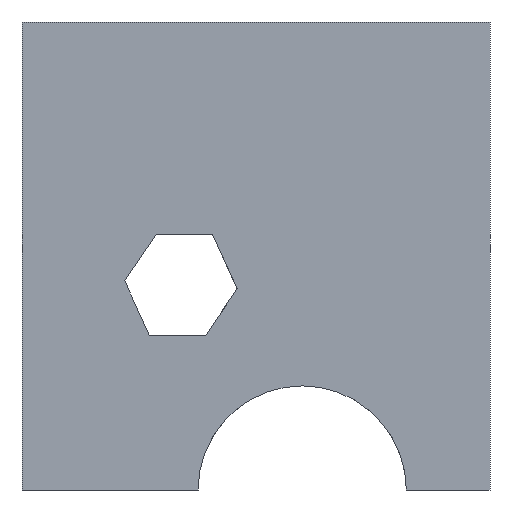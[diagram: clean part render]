
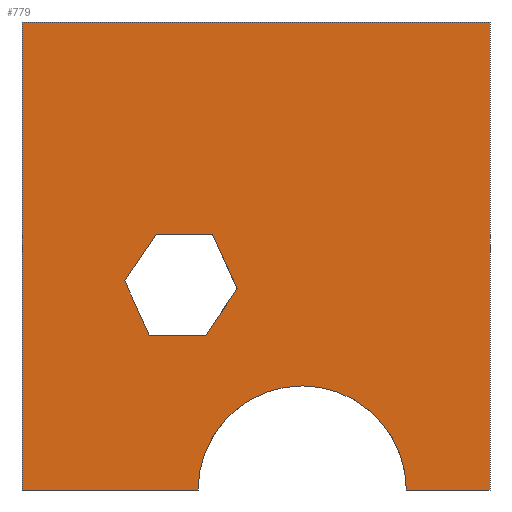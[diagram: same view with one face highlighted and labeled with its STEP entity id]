
A CAD part, front view. The second image highlights one B-rep face of the part: STEP entity #779.
In plain terms, the highlighted planar face has unit normal (0, -1, 0).
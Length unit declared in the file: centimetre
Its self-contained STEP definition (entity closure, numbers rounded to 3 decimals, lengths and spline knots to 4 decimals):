
#11 = FACE_BOUND ( 'NONE', #990, .T. ) ;
#14 = ORIENTED_EDGE ( 'NONE', *, *, #587, .T. ) ;
#38 = LINE ( 'NONE', #979, #219 ) ;
#47 = DIRECTION ( 'NONE',  ( -1., 0., 0. ) ) ;
#53 = CARTESIAN_POINT ( 'NONE',  ( 821.0989, 0., 0. ) ) ;
#56 = ORIENTED_EDGE ( 'NONE', *, *, #299, .T. ) ;
#85 = VECTOR ( 'NONE', #861, 100. ) ;
#92 = DIRECTION ( 'NONE',  ( 0., 1., 0. ) ) ;
#120 = LINE ( 'NONE', #1057, #245 ) ;
#121 = CARTESIAN_POINT ( 'NONE',  ( 0., 0., 0. ) ) ;
#124 = EDGE_CURVE ( 'NONE', #599, #389, #554, .T. ) ;
#143 = VECTOR ( 'NONE', #434, 100. ) ;
#148 = VERTEX_POINT ( 'NONE', #915 ) ;
#151 = CIRCLE ( 'NONE', #251, 222.4499 ) ;
#162 = DIRECTION ( 'NONE',  ( 1., 0., 0. ) ) ;
#181 = EDGE_CURVE ( 'NONE', #358, #840, #38, .T. ) ;
#197 = DIRECTION ( 'NONE',  ( 0., 1., 0. ) ) ;
#219 = VECTOR ( 'NONE', #705, 100. ) ;
#223 = LINE ( 'NONE', #541, #477 ) ;
#235 = ORIENTED_EDGE ( 'NONE', *, *, #1018, .T. ) ;
#245 = VECTOR ( 'NONE', #281, 100. ) ;
#250 = DIRECTION ( 'NONE',  ( 0., 0., 1. ) ) ;
#251 = AXIS2_PLACEMENT_3D ( 'NONE', #356, #276, #788 ) ;
#252 = ORIENTED_EDGE ( 'NONE', *, *, #1003, .T. ) ;
#276 = DIRECTION ( 'NONE',  ( 0., 1., 0. ) ) ;
#281 = DIRECTION ( 'NONE',  ( -0.412, 0., 0.911 ) ) ;
#299 = EDGE_CURVE ( 'NONE', #148, #1008, #388, .T. ) ;
#307 = VECTOR ( 'NONE', #820, 100. ) ;
#310 = ORIENTED_EDGE ( 'NONE', *, *, #124, .T. ) ;
#330 = VERTEX_POINT ( 'NONE', #833 ) ;
#339 = VECTOR ( 'NONE', #839, 100. ) ;
#347 = FACE_OUTER_BOUND ( 'NONE', #365, .T. ) ;
#354 = PLANE ( 'NONE',  #525 ) ;
#356 = CARTESIAN_POINT ( 'NONE',  ( 598.649, 0., 0. ) ) ;
#358 = VERTEX_POINT ( 'NONE', #645 ) ;
#362 = DIRECTION ( 'NONE',  ( 0.412, 0., -0.911 ) ) ;
#365 = EDGE_LOOP ( 'NONE', ( #310, #888, #491, #747, #454, #563, #14 ) ) ;
#381 = CARTESIAN_POINT ( 'NONE',  ( 392.3842, 0., 330.1695 ) ) ;
#388 = LINE ( 'NONE', #739, #339 ) ;
#389 = VERTEX_POINT ( 'NONE', #999 ) ;
#423 = CARTESIAN_POINT ( 'NONE',  ( 0., 0., 0. ) ) ;
#424 = LINE ( 'NONE', #518, #143 ) ;
#428 = EDGE_CURVE ( 'NONE', #1005, #840, #860, .T. ) ;
#434 = DIRECTION ( 'NONE',  ( 1., 0., 0. ) ) ;
#435 = CIRCLE ( 'NONE', #579, 222.4499 ) ;
#445 = VECTOR ( 'NONE', #939, 100. ) ;
#450 = CARTESIAN_POINT ( 'NONE',  ( 407.0344, 0., 546.6924 ) ) ;
#454 = ORIENTED_EDGE ( 'NONE', *, *, #181, .F. ) ;
#457 = CARTESIAN_POINT ( 'NONE',  ( 598.649, 0., 222.4499 ) ) ;
#477 = VECTOR ( 'NONE', #362, 100. ) ;
#491 = ORIENTED_EDGE ( 'NONE', *, *, #552, .T. ) ;
#494 = EDGE_CURVE ( 'NONE', #510, #358, #1016, .T. ) ;
#508 = LINE ( 'NONE', #955, #85 ) ;
#510 = VERTEX_POINT ( 'NONE', #532 ) ;
#512 = CARTESIAN_POINT ( 'NONE',  ( 1000., 0., 0. ) ) ;
#518 = CARTESIAN_POINT ( 'NONE',  ( 286.9083, 0., 546.6924 ) ) ;
#525 = AXIS2_PLACEMENT_3D ( 'NONE', #873, #92, #250 ) ;
#532 = CARTESIAN_POINT ( 'NONE',  ( 0., 0., 1000. ) ) ;
#533 = CARTESIAN_POINT ( 'NONE',  ( 598.649, 0., 0. ) ) ;
#541 = CARTESIAN_POINT ( 'NONE',  ( 407.0344, 0., 546.6924 ) ) ;
#552 = EDGE_CURVE ( 'NONE', #950, #1005, #151, .T. ) ;
#554 = LINE ( 'NONE', #560, #307 ) ;
#560 = CARTESIAN_POINT ( 'NONE',  ( 0., 0., 0. ) ) ;
#563 = ORIENTED_EDGE ( 'NONE', *, *, #494, .F. ) ;
#579 = AXIS2_PLACEMENT_3D ( 'NONE', #533, #197, #987 ) ;
#585 = CARTESIAN_POINT ( 'NONE',  ( 0., 0., 1000. ) ) ;
#587 = EDGE_CURVE ( 'NONE', #510, #599, #783, .T. ) ;
#599 = VERTEX_POINT ( 'NONE', #121 ) ;
#620 = VECTOR ( 'NONE', #47, 100. ) ;
#645 = CARTESIAN_POINT ( 'NONE',  ( 1000., 0., 1000. ) ) ;
#682 = VECTOR ( 'NONE', #970, 100. ) ;
#705 = DIRECTION ( 'NONE',  ( 0., 0., -1. ) ) ;
#739 = CARTESIAN_POINT ( 'NONE',  ( 219.5201, 0., 446.8893 ) ) ;
#747 = ORIENTED_EDGE ( 'NONE', *, *, #428, .T. ) ;
#779 = ADVANCED_FACE ( 'NONE', ( #11, #347 ), #354, .F. ) ;
#783 = LINE ( 'NONE', #977, #682 ) ;
#788 = DIRECTION ( 'NONE',  ( 0., 0., 1. ) ) ;
#795 = EDGE_CURVE ( 'NONE', #330, #1034, #508, .T. ) ;
#797 = VECTOR ( 'NONE', #162, 100. ) ;
#811 = CARTESIAN_POINT ( 'NONE',  ( 272.258, 0., 330.1695 ) ) ;
#820 = DIRECTION ( 'NONE',  ( 1., 0., 0. ) ) ;
#833 = CARTESIAN_POINT ( 'NONE',  ( 459.7724, 0., 429.9727 ) ) ;
#835 = ORIENTED_EDGE ( 'NONE', *, *, #795, .T. ) ;
#839 = DIRECTION ( 'NONE',  ( 0.56, 0., 0.829 ) ) ;
#840 = VERTEX_POINT ( 'NONE', #512 ) ;
#846 = EDGE_CURVE ( 'NONE', #1008, #1011, #424, .T. ) ;
#860 = LINE ( 'NONE', #423, #797 ) ;
#861 = DIRECTION ( 'NONE',  ( -0.56, 0., -0.829 ) ) ;
#873 = CARTESIAN_POINT ( 'NONE',  ( 0., 0., 1000. ) ) ;
#888 = ORIENTED_EDGE ( 'NONE', *, *, #923, .T. ) ;
#899 = CARTESIAN_POINT ( 'NONE',  ( 392.3842, 0., 330.1695 ) ) ;
#906 = CARTESIAN_POINT ( 'NONE',  ( 286.9083, 0., 546.6924 ) ) ;
#915 = CARTESIAN_POINT ( 'NONE',  ( 219.5201, 0., 446.8893 ) ) ;
#923 = EDGE_CURVE ( 'NONE', #389, #950, #435, .T. ) ;
#939 = DIRECTION ( 'NONE',  ( 1., 0., 0. ) ) ;
#942 = ORIENTED_EDGE ( 'NONE', *, *, #946, .T. ) ;
#946 = EDGE_CURVE ( 'NONE', #1011, #330, #223, .T. ) ;
#950 = VERTEX_POINT ( 'NONE', #457 ) ;
#955 = CARTESIAN_POINT ( 'NONE',  ( 459.7724, 0., 429.9727 ) ) ;
#970 = DIRECTION ( 'NONE',  ( 0., 0., -1. ) ) ;
#972 = ORIENTED_EDGE ( 'NONE', *, *, #846, .T. ) ;
#977 = CARTESIAN_POINT ( 'NONE',  ( 0., 0., 1000. ) ) ;
#979 = CARTESIAN_POINT ( 'NONE',  ( 1000., 0., 1000. ) ) ;
#987 = DIRECTION ( 'NONE',  ( 0., 0., 1. ) ) ;
#990 = EDGE_LOOP ( 'NONE', ( #972, #942, #835, #235, #252, #56 ) ) ;
#999 = CARTESIAN_POINT ( 'NONE',  ( 376.1992, 0., 0. ) ) ;
#1003 = EDGE_CURVE ( 'NONE', #1019, #148, #120, .T. ) ;
#1005 = VERTEX_POINT ( 'NONE', #53 ) ;
#1008 = VERTEX_POINT ( 'NONE', #906 ) ;
#1011 = VERTEX_POINT ( 'NONE', #450 ) ;
#1016 = LINE ( 'NONE', #585, #445 ) ;
#1018 = EDGE_CURVE ( 'NONE', #1034, #1019, #1044, .T. ) ;
#1019 = VERTEX_POINT ( 'NONE', #811 ) ;
#1034 = VERTEX_POINT ( 'NONE', #899 ) ;
#1044 = LINE ( 'NONE', #381, #620 ) ;
#1057 = CARTESIAN_POINT ( 'NONE',  ( 272.258, 0., 330.1695 ) ) ;
